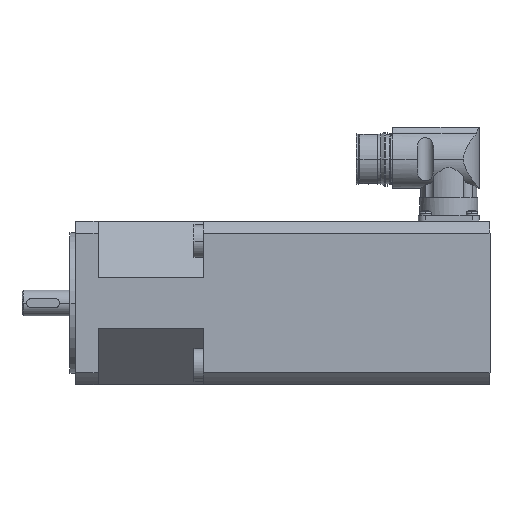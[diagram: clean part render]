
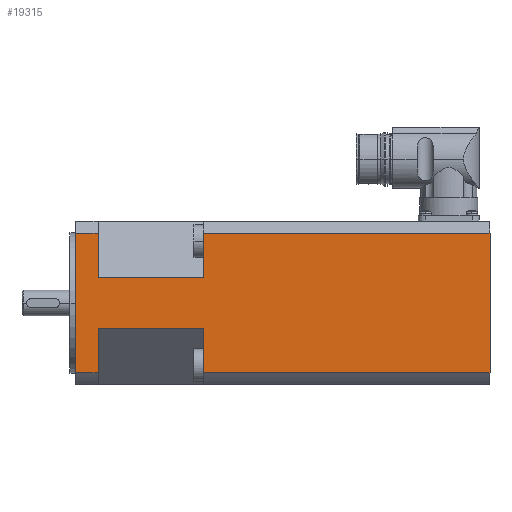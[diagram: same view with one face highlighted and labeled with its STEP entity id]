
A CAD part, front view. The second image highlights one B-rep face of the part: STEP entity #19315.
In plain terms, the highlighted planar face has unit normal (0, -1, 0).
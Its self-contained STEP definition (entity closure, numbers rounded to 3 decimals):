
#18495=CARTESIAN_POINT('',(794.764,477.104,-29.85));
#18496=VERTEX_POINT('',#18495);
#18504=CARTESIAN_POINT('',(794.764,477.104,-10.962));
#18505=VERTEX_POINT('',#18504);
#18506=CARTESIAN_POINT('',(794.764,477.104,-10.962));
#18507=DIRECTION('',(0.,0.,-1.0));
#18508=VECTOR('',#18507,18.888);
#18509=LINE('',#18506,#18508);
#18510=EDGE_CURVE('',#18505,#18496,#18509,.T.);
#18595=CARTESIAN_POINT('',(749.764,477.104,10.962));
#18596=VERTEX_POINT('',#18595);
#18603=CARTESIAN_POINT('',(794.764,477.104,10.962));
#18604=VERTEX_POINT('',#18603);
#18605=CARTESIAN_POINT('',(794.764,477.104,10.962));
#18606=DIRECTION('',(-1.0,0.,0.));
#18607=VECTOR('',#18606,45.);
#18608=LINE('',#18605,#18607);
#18609=EDGE_CURVE('',#18604,#18596,#18608,.T.);
#19169=CARTESIAN_POINT('',(749.764,477.104,-29.85));
#19170=VERTEX_POINT('',#19169);
#19171=CARTESIAN_POINT('',(740.264,477.104,-29.85));
#19172=VERTEX_POINT('',#19171);
#19173=CARTESIAN_POINT('',(749.764,477.104,-29.85));
#19174=DIRECTION('',(-1.0,0.,0.0));
#19175=VECTOR('',#19174,9.5);
#19176=LINE('',#19173,#19175);
#19177=EDGE_CURVE('',#19170,#19172,#19176,.T.);
#19211=CARTESIAN_POINT('',(740.264,477.104,29.85));
#19212=VERTEX_POINT('',#19211);
#19213=CARTESIAN_POINT('',(749.764,477.104,29.85));
#19214=VERTEX_POINT('',#19213);
#19215=CARTESIAN_POINT('',(740.264,477.104,29.85));
#19216=DIRECTION('',(1.0,0.,0.0));
#19217=VECTOR('',#19216,9.5);
#19218=LINE('',#19215,#19217);
#19219=EDGE_CURVE('',#19212,#19214,#19218,.T.);
#19248=CARTESIAN_POINT('',(740.264,477.104,-44.));
#19249=DIRECTION('',(0.,-1.0,0.));
#19250=DIRECTION('',(0.0,0.0,-1.0));
#19251=AXIS2_PLACEMENT_3D('',#19248,#19249,#19250);
#19252=PLANE('',#19251);
#19253=ORIENTED_EDGE('',*,*,#19219,.F.);
#19254=CARTESIAN_POINT('',(740.264,477.104,29.85));
#19255=DIRECTION('',(0.0,0.0,-1.0));
#19256=VECTOR('',#19255,59.699);
#19257=LINE('',#19254,#19256);
#19258=EDGE_CURVE('',#19212,#19172,#19257,.T.);
#19259=ORIENTED_EDGE('',*,*,#19258,.T.);
#19260=ORIENTED_EDGE('',*,*,#19177,.F.);
#19261=CARTESIAN_POINT('',(749.764,477.104,-10.962));
#19262=VERTEX_POINT('',#19261);
#19263=CARTESIAN_POINT('',(749.764,477.104,-29.85));
#19264=DIRECTION('',(0.0,0.0,1.0));
#19265=VECTOR('',#19264,18.888);
#19266=LINE('',#19263,#19265);
#19267=EDGE_CURVE('',#19170,#19262,#19266,.T.);
#19268=ORIENTED_EDGE('',*,*,#19267,.T.);
#19269=CARTESIAN_POINT('',(749.764,477.104,-10.962));
#19270=DIRECTION('',(1.0,0.,0.));
#19271=VECTOR('',#19270,45.);
#19272=LINE('',#19269,#19271);
#19273=EDGE_CURVE('',#19262,#18505,#19272,.T.);
#19274=ORIENTED_EDGE('',*,*,#19273,.T.);
#19275=ORIENTED_EDGE('',*,*,#18510,.T.);
#19276=CARTESIAN_POINT('',(917.264,477.104,-29.85));
#19277=VERTEX_POINT('',#19276);
#19278=CARTESIAN_POINT('',(794.764,477.104,-29.85));
#19279=DIRECTION('',(1.0,0.,0.));
#19280=VECTOR('',#19279,122.5);
#19281=LINE('',#19278,#19280);
#19282=EDGE_CURVE('',#18496,#19277,#19281,.T.);
#19283=ORIENTED_EDGE('',*,*,#19282,.T.);
#19284=CARTESIAN_POINT('',(917.264,477.104,29.85));
#19285=VERTEX_POINT('',#19284);
#19286=CARTESIAN_POINT('',(917.264,477.104,-29.85));
#19287=DIRECTION('',(0.0,0.0,1.0));
#19288=VECTOR('',#19287,59.699);
#19289=LINE('',#19286,#19288);
#19290=EDGE_CURVE('',#19277,#19285,#19289,.T.);
#19291=ORIENTED_EDGE('',*,*,#19290,.T.);
#19292=CARTESIAN_POINT('',(794.764,477.104,29.85));
#19293=VERTEX_POINT('',#19292);
#19294=CARTESIAN_POINT('',(917.264,477.104,29.85));
#19295=DIRECTION('',(-1.0,0.,0.));
#19296=VECTOR('',#19295,122.5);
#19297=LINE('',#19294,#19296);
#19298=EDGE_CURVE('',#19285,#19293,#19297,.T.);
#19299=ORIENTED_EDGE('',*,*,#19298,.T.);
#19300=CARTESIAN_POINT('',(794.764,477.104,29.85));
#19301=DIRECTION('',(0.0,0.,-1.0));
#19302=VECTOR('',#19301,18.888);
#19303=LINE('',#19300,#19302);
#19304=EDGE_CURVE('',#19293,#18604,#19303,.T.);
#19305=ORIENTED_EDGE('',*,*,#19304,.T.);
#19306=ORIENTED_EDGE('',*,*,#18609,.T.);
#19307=CARTESIAN_POINT('',(749.764,477.104,10.962));
#19308=DIRECTION('',(0.0,0.0,1.0));
#19309=VECTOR('',#19308,18.888);
#19310=LINE('',#19307,#19309);
#19311=EDGE_CURVE('',#18596,#19214,#19310,.T.);
#19312=ORIENTED_EDGE('',*,*,#19311,.T.);
#19313=EDGE_LOOP('',(#19253,#19259,#19260,#19268,#19274,#19275,#19283,#19291,#19299,#19305,#19306,#19312));
#19314=FACE_OUTER_BOUND('',#19313,.T.);
#19315=ADVANCED_FACE('',(#19314),#19252,.T.);
